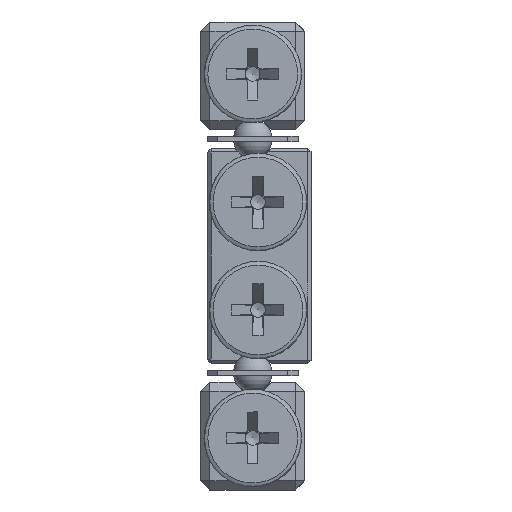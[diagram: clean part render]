
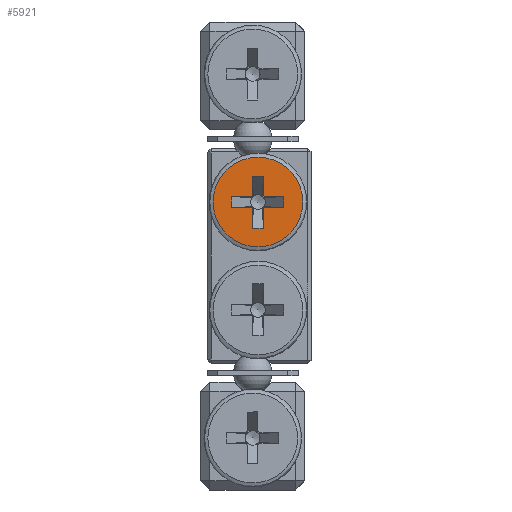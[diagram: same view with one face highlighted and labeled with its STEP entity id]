
A CAD part, left-side view. The second image highlights one B-rep face of the part: STEP entity #5921.
In plain terms, the highlighted planar face has unit normal (-1, 0, 0).
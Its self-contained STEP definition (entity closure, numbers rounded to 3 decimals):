
#219 = EDGE_CURVE ( 'NONE', #25147, #360, #32489, .T. ) ;
#360 = VERTEX_POINT ( 'NONE', #4139 ) ;
#1151 = CARTESIAN_POINT ( 'NONE',  ( -152., 4.5, 4.698 ) ) ;
#1626 = AXIS2_PLACEMENT_3D ( 'NONE', #25853, #34053, #14888 ) ;
#1685 = CARTESIAN_POINT ( 'NONE',  ( -152., 6.1, 3.75 ) ) ;
#1732 = CARTESIAN_POINT ( 'NONE',  ( -152., 3.7, 6.15 ) ) ;
#1768 = LINE ( 'NONE', #27314, #5225 ) ;
#1773 = VERTEX_POINT ( 'NONE', #11665 ) ;
#1977 = CARTESIAN_POINT ( 'NONE',  ( -152., 3.552, 4.55 ) ) ;
#1987 = LINE ( 'NONE', #2168, #21089 ) ;
#2075 = LINE ( 'NONE', #24314, #11682 ) ;
#2168 = CARTESIAN_POINT ( 'NONE',  ( -152., 4.5, 2.15 ) ) ;
#2401 = VERTEX_POINT ( 'NONE', #29632 ) ;
#2503 = ORIENTED_EDGE ( 'NONE', *, *, #8384, .F. ) ;
#2882 = LINE ( 'NONE', #13810, #20970 ) ;
#2905 = CARTESIAN_POINT ( 'NONE',  ( -152., 6.1, 4.55 ) ) ;
#2992 = VERTEX_POINT ( 'NONE', #24131 ) ;
#2998 = AXIS2_PLACEMENT_3D ( 'NONE', #15960, #24179, #35292 ) ;
#3327 = ORIENTED_EDGE ( 'NONE', *, *, #24688, .F. ) ;
#3659 = CARTESIAN_POINT ( 'NONE',  ( -152., 3.7, 6.15 ) ) ;
#3674 = ORIENTED_EDGE ( 'NONE', *, *, #9051, .F. ) ;
#3953 = FACE_BOUND ( 'NONE', #11064, .T. ) ;
#3984 = DIRECTION ( 'NONE',  ( -1., 0., 0. ) ) ;
#4139 = CARTESIAN_POINT ( 'NONE',  ( -152., 3.552, 3.75 ) ) ;
#4198 = LINE ( 'NONE', #12185, #23818 ) ;
#4457 = DIRECTION ( 'NONE',  ( -1., 0., 0. ) ) ;
#4477 = DIRECTION ( 'NONE',  ( 0., 0., -1. ) ) ;
#4540 = CARTESIAN_POINT ( 'NONE',  ( -152., 4.1, 4.15 ) ) ;
#5025 = CARTESIAN_POINT ( 'NONE',  ( -152., 4.1, 4.15 ) ) ;
#5078 = DIRECTION ( 'NONE',  ( 0., 1., 0. ) ) ;
#5225 = VECTOR ( 'NONE', #5078, 1000. ) ;
#5285 = VERTEX_POINT ( 'NONE', #33347 ) ;
#5312 = CARTESIAN_POINT ( 'NONE',  ( -152., 3.7, 6.15 ) ) ;
#5361 = CIRCLE ( 'NONE', #33850, 0.678 ) ;
#5704 = ORIENTED_EDGE ( 'NONE', *, *, #21245, .T. ) ;
#5921 = ADVANCED_FACE ( 'NONE', ( #17807, #3953 ), #15426, .F. ) ;
#6670 = DIRECTION ( 'NONE',  ( 0., 0., -1. ) ) ;
#7246 = CARTESIAN_POINT ( 'NONE',  ( -152., 7.85, 4.15 ) ) ;
#8384 = EDGE_CURVE ( 'NONE', #16890, #2992, #2882, .T. ) ;
#8560 = LINE ( 'NONE', #14201, #21689 ) ;
#8718 = EDGE_CURVE ( 'NONE', #25520, #11706, #13939, .T. ) ;
#8872 = CIRCLE ( 'NONE', #2998, 3.45 ) ;
#8976 = DIRECTION ( 'NONE',  ( 0., -1., 0. ) ) ;
#9051 = EDGE_CURVE ( 'NONE', #34223, #33399, #5361, .T. ) ;
#9279 = VECTOR ( 'NONE', #20230, 1000. ) ;
#9327 = VECTOR ( 'NONE', #8976, 1000. ) ;
#10521 = ORIENTED_EDGE ( 'NONE', *, *, #18693, .T. ) ;
#10555 = VECTOR ( 'NONE', #11019, 1000. ) ;
#11019 = DIRECTION ( 'NONE',  ( 0., -1., 0. ) ) ;
#11064 = EDGE_LOOP ( 'NONE', ( #32573, #10521, #12959, #31844, #3674, #20785, #18357, #27333, #3327, #5704, #33670, #14754, #20884, #18835, #2503, #21383 ) ) ;
#11181 = CARTESIAN_POINT ( 'NONE',  ( -152., 4.648, 3.75 ) ) ;
#11366 = AXIS2_PLACEMENT_3D ( 'NONE', #7246, #15053, #29481 ) ;
#11403 = EDGE_CURVE ( 'NONE', #2401, #1773, #14240, .T. ) ;
#11665 = CARTESIAN_POINT ( 'NONE',  ( -152., 4.5, 6.15 ) ) ;
#11682 = VECTOR ( 'NONE', #21572, 1000. ) ;
#11706 = VERTEX_POINT ( 'NONE', #17639 ) ;
#11911 = VERTEX_POINT ( 'NONE', #1977 ) ;
#12162 = DIRECTION ( 'NONE',  ( 0., 0., 1. ) ) ;
#12185 = CARTESIAN_POINT ( 'NONE',  ( -152., 4.5, 2.15 ) ) ;
#12267 = VECTOR ( 'NONE', #27902, 1000. ) ;
#12347 = VECTOR ( 'NONE', #19492, 1000. ) ;
#12725 = CARTESIAN_POINT ( 'NONE',  ( -152., 4.5, 2.15 ) ) ;
#12959 = ORIENTED_EDGE ( 'NONE', *, *, #27225, .F. ) ;
#13498 = VERTEX_POINT ( 'NONE', #1685 ) ;
#13810 = CARTESIAN_POINT ( 'NONE',  ( -152., 2.1, 3.75 ) ) ;
#13939 = LINE ( 'NONE', #16510, #10555 ) ;
#14201 = CARTESIAN_POINT ( 'NONE',  ( -152., 6.1, 4.55 ) ) ;
#14240 = LINE ( 'NONE', #3659, #9279 ) ;
#14671 = EDGE_CURVE ( 'NONE', #34223, #13498, #2075, .T. ) ;
#14754 = ORIENTED_EDGE ( 'NONE', *, *, #21836, .T. ) ;
#14888 = DIRECTION ( 'NONE',  ( 0., 0., 1. ) ) ;
#15053 = DIRECTION ( 'NONE',  ( 1., 0., 0. ) ) ;
#15274 = CIRCLE ( 'NONE', #28110, 0.678 ) ;
#15426 = PLANE ( 'NONE',  #11366 ) ;
#15508 = CARTESIAN_POINT ( 'NONE',  ( -152., 4.5, 3.602 ) ) ;
#15522 = VERTEX_POINT ( 'NONE', #32519 ) ;
#15960 = CARTESIAN_POINT ( 'NONE',  ( -152., 4.1, 4.15 ) ) ;
#16510 = CARTESIAN_POINT ( 'NONE',  ( -152., 6.1, 4.55 ) ) ;
#16518 = EDGE_CURVE ( 'NONE', #31480, #33399, #4198, .T. ) ;
#16548 = ORIENTED_EDGE ( 'NONE', *, *, #18747, .T. ) ;
#16651 = EDGE_CURVE ( 'NONE', #16890, #360, #1768, .T. ) ;
#16747 = DIRECTION ( 'NONE',  ( -1., 0., 0. ) ) ;
#16890 = VERTEX_POINT ( 'NONE', #20808 ) ;
#17639 = CARTESIAN_POINT ( 'NONE',  ( -152., 4.648, 4.55 ) ) ;
#17744 = AXIS2_PLACEMENT_3D ( 'NONE', #5025, #4457, #21411 ) ;
#17807 = FACE_OUTER_BOUND ( 'NONE', #31827, .T. ) ;
#18357 = ORIENTED_EDGE ( 'NONE', *, *, #20319, .F. ) ;
#18693 = EDGE_CURVE ( 'NONE', #25147, #31415, #32746, .T. ) ;
#18747 = EDGE_CURVE ( 'NONE', #5285, #5285, #8872, .T. ) ;
#18835 = ORIENTED_EDGE ( 'NONE', *, *, #24633, .T. ) ;
#19492 = DIRECTION ( 'NONE',  ( 0., -1., 0. ) ) ;
#20230 = DIRECTION ( 'NONE',  ( 0., 1., 0. ) ) ;
#20319 = EDGE_CURVE ( 'NONE', #25520, #13498, #8560, .T. ) ;
#20335 = CARTESIAN_POINT ( 'NONE',  ( -152., 6.1, 4.55 ) ) ;
#20785 = ORIENTED_EDGE ( 'NONE', *, *, #14671, .T. ) ;
#20808 = CARTESIAN_POINT ( 'NONE',  ( -152., 2.1, 3.75 ) ) ;
#20884 = ORIENTED_EDGE ( 'NONE', *, *, #34140, .F. ) ;
#20970 = VECTOR ( 'NONE', #30948, 1000. ) ;
#21089 = VECTOR ( 'NONE', #30056, 1000. ) ;
#21245 = EDGE_CURVE ( 'NONE', #32962, #1773, #1987, .T. ) ;
#21276 = CIRCLE ( 'NONE', #17744, 0.678 ) ;
#21383 = ORIENTED_EDGE ( 'NONE', *, *, #16651, .T. ) ;
#21411 = DIRECTION ( 'NONE',  ( 0., 0., 1. ) ) ;
#21572 = DIRECTION ( 'NONE',  ( 0., 1., 0. ) ) ;
#21689 = VECTOR ( 'NONE', #6670, 1000. ) ;
#21691 = VECTOR ( 'NONE', #4477, 1000. ) ;
#21836 = EDGE_CURVE ( 'NONE', #2401, #15522, #30101, .T. ) ;
#22047 = CARTESIAN_POINT ( 'NONE',  ( -152., 4.1, 4.15 ) ) ;
#23172 = CARTESIAN_POINT ( 'NONE',  ( -152., 4.5, 2.15 ) ) ;
#23818 = VECTOR ( 'NONE', #26442, 1000. ) ;
#24131 = CARTESIAN_POINT ( 'NONE',  ( -152., 2.1, 4.55 ) ) ;
#24179 = DIRECTION ( 'NONE',  ( -1., 0., 0. ) ) ;
#24314 = CARTESIAN_POINT ( 'NONE',  ( -152., 2.1, 3.75 ) ) ;
#24633 = EDGE_CURVE ( 'NONE', #11911, #2992, #35904, .T. ) ;
#24688 = EDGE_CURVE ( 'NONE', #32962, #11706, #15274, .T. ) ;
#25147 = VERTEX_POINT ( 'NONE', #31191 ) ;
#25520 = VERTEX_POINT ( 'NONE', #20335 ) ;
#25853 = CARTESIAN_POINT ( 'NONE',  ( -152., 4.1, 4.15 ) ) ;
#26442 = DIRECTION ( 'NONE',  ( 0., 0., 1. ) ) ;
#27225 = EDGE_CURVE ( 'NONE', #31480, #31415, #30869, .T. ) ;
#27314 = CARTESIAN_POINT ( 'NONE',  ( -152., 2.1, 3.75 ) ) ;
#27333 = ORIENTED_EDGE ( 'NONE', *, *, #8718, .T. ) ;
#27882 = DIRECTION ( 'NONE',  ( 0., 0., 1. ) ) ;
#27902 = DIRECTION ( 'NONE',  ( 0., 0., -1. ) ) ;
#28110 = AXIS2_PLACEMENT_3D ( 'NONE', #22047, #16747, #27882 ) ;
#29481 = DIRECTION ( 'NONE',  ( 0., 0., -1. ) ) ;
#29632 = CARTESIAN_POINT ( 'NONE',  ( -152., 3.7, 6.15 ) ) ;
#30056 = DIRECTION ( 'NONE',  ( 0., 0., 1. ) ) ;
#30101 = LINE ( 'NONE', #5312, #12267 ) ;
#30869 = LINE ( 'NONE', #23172, #9327 ) ;
#30948 = DIRECTION ( 'NONE',  ( 0., 0., 1. ) ) ;
#31191 = CARTESIAN_POINT ( 'NONE',  ( -152., 3.7, 3.602 ) ) ;
#31415 = VERTEX_POINT ( 'NONE', #32441 ) ;
#31480 = VERTEX_POINT ( 'NONE', #12725 ) ;
#31827 = EDGE_LOOP ( 'NONE', ( #16548 ) ) ;
#31844 = ORIENTED_EDGE ( 'NONE', *, *, #16518, .T. ) ;
#32441 = CARTESIAN_POINT ( 'NONE',  ( -152., 3.7, 2.15 ) ) ;
#32489 = CIRCLE ( 'NONE', #1626, 0.678 ) ;
#32519 = CARTESIAN_POINT ( 'NONE',  ( -152., 3.7, 4.698 ) ) ;
#32573 = ORIENTED_EDGE ( 'NONE', *, *, #219, .F. ) ;
#32746 = LINE ( 'NONE', #1732, #21691 ) ;
#32962 = VERTEX_POINT ( 'NONE', #1151 ) ;
#33347 = CARTESIAN_POINT ( 'NONE',  ( -152., 4.1, 0.7 ) ) ;
#33399 = VERTEX_POINT ( 'NONE', #15508 ) ;
#33670 = ORIENTED_EDGE ( 'NONE', *, *, #11403, .F. ) ;
#33850 = AXIS2_PLACEMENT_3D ( 'NONE', #4540, #3984, #12162 ) ;
#34053 = DIRECTION ( 'NONE',  ( -1., 0., 0. ) ) ;
#34140 = EDGE_CURVE ( 'NONE', #11911, #15522, #21276, .T. ) ;
#34223 = VERTEX_POINT ( 'NONE', #11181 ) ;
#35292 = DIRECTION ( 'NONE',  ( 0., 0., -1. ) ) ;
#35904 = LINE ( 'NONE', #2905, #12347 ) ;
